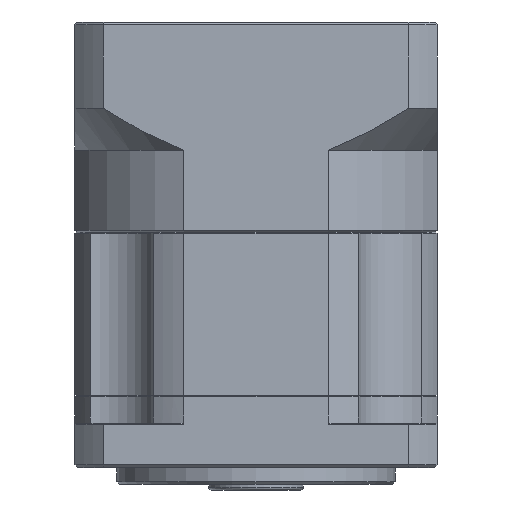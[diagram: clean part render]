
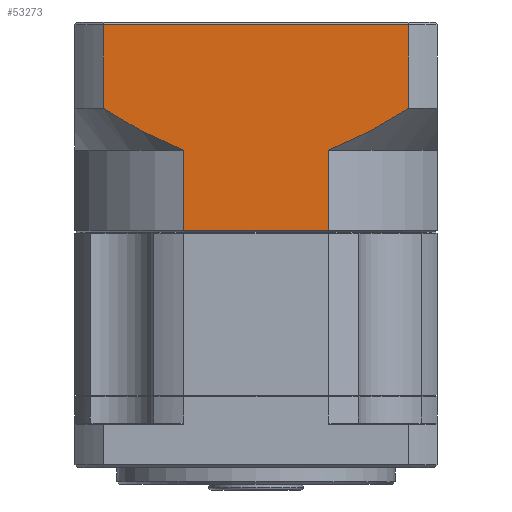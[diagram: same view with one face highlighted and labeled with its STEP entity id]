
A CAD part, front view. The second image highlights one B-rep face of the part: STEP entity #53273.
In plain terms, the highlighted planar face has unit normal (0, -1, 0).
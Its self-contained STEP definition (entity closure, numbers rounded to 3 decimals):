
#90 = ORIENTED_EDGE ( 'NONE', *, *, #79758, .F. ) ;
#240 = EDGE_LOOP ( 'NONE', ( #52726, #25613, #28148, #99792, #4098, #50906, #90, #76567 ) ) ;
#2361 = CARTESIAN_POINT ( 'NONE',  ( 47.596, -33.003, 68.303 ) ) ;
#3485 = CARTESIAN_POINT ( 'NONE',  ( 7.22, -33.003, 46.392 ) ) ;
#4098 = ORIENTED_EDGE ( 'NONE', *, *, #81255, .F. ) ;
#4250 = B_SPLINE_CURVE_WITH_KNOTS ( 'NONE', 3,
 ( #2361, #48930, #25878, #80004, #33750, #87756, #41501, #95480 ),
 .UNSPECIFIED., .F., .F.,
 ( 4, 2, 2, 4 ),
 ( 0.059, 0.063, 0.067, 0.075 ),
 .UNSPECIFIED. ) ;
#4653 = FACE_OUTER_BOUND ( 'NONE', #240, .T. ) ;
#11693 = VECTOR ( 'NONE', #47134, 1000. ) ;
#12051 = VECTOR ( 'NONE', #81212, 1000. ) ;
#14105 = LINE ( 'NONE', #93330, #11693 ) ;
#14474 = LINE ( 'NONE', #19193, #12051 ) ;
#14492 = VECTOR ( 'NONE', #57460, 1000. ) ;
#16661 = CARTESIAN_POINT ( 'NONE',  ( -7.176, -33.003, 65.803 ) ) ;
#18654 = VECTOR ( 'NONE', #73540, 1000. ) ;
#19040 = CARTESIAN_POINT ( 'NONE',  ( 6.577, -33.003, 61.042 ) ) ;
#19193 = CARTESIAN_POINT ( 'NONE',  ( -7.176, -33.003, 83.303 ) ) ;
#20758 = VECTOR ( 'NONE', #55359, 1000. ) ;
#21086 = LINE ( 'NONE', #65816, #18654 ) ;
#22418 = LINE ( 'NONE', #45638, #43128 ) ;
#24655 = CARTESIAN_POINT ( 'NONE',  ( 47.596, -33.003, 68.303 ) ) ;
#25613 = ORIENTED_EDGE ( 'NONE', *, *, #84022, .T. ) ;
#25878 = CARTESIAN_POINT ( 'NONE',  ( 45.306, -33.003, 66.854 ) ) ;
#27270 = CARTESIAN_POINT ( 'NONE',  ( 4.678, -33.003, 61.82 ) ) ;
#27605 = CARTESIAN_POINT ( 'NONE',  ( 33.2, -33.003, 46.392 ) ) ;
#28148 = ORIENTED_EDGE ( 'NONE', *, *, #83250, .F. ) ;
#30045 = VERTEX_POINT ( 'NONE', #3485 ) ;
#33750 = CARTESIAN_POINT ( 'NONE',  ( 41.785, -33.003, 64.799 ) ) ;
#35130 = CARTESIAN_POINT ( 'NONE',  ( 2.201, -33.003, 62.943 ) ) ;
#35702 = VERTEX_POINT ( 'NONE', #27605 ) ;
#36201 = VERTEX_POINT ( 'NONE', #74139 ) ;
#41501 = CARTESIAN_POINT ( 'NONE',  ( 35.739, -33.003, 61.746 ) ) ;
#42874 = CARTESIAN_POINT ( 'NONE',  ( -2.592, -33.003, 65.453 ) ) ;
#43128 = VECTOR ( 'NONE', #77677, 1000. ) ;
#44815 = DIRECTION ( 'NONE',  ( 0., 1., 0. ) ) ;
#45564 = CARTESIAN_POINT ( 'NONE',  ( 7.22, -33.003, 60.803 ) ) ;
#45638 = CARTESIAN_POINT ( 'NONE',  ( 47.596, -33.003, 65.803 ) ) ;
#47134 = DIRECTION ( 'NONE',  ( 1., 0., 0. ) ) ;
#48930 = CARTESIAN_POINT ( 'NONE',  ( 46.458, -33.003, 67.57 ) ) ;
#49037 = CARTESIAN_POINT ( 'NONE',  ( 33.2, -33.003, 60.803 ) ) ;
#50628 = CARTESIAN_POINT ( 'NONE',  ( -7.176, -33.003, 68.303 ) ) ;
#50906 = ORIENTED_EDGE ( 'NONE', *, *, #80664, .T. ) ;
#52283 = VERTEX_POINT ( 'NONE', #84159 ) ;
#52726 = ORIENTED_EDGE ( 'NONE', *, *, #85692, .F. ) ;
#53273 = ADVANCED_FACE ( 'NONE', ( #4653 ), #60062, .F. ) ;
#55359 = DIRECTION ( 'NONE',  ( 0., 0., 1. ) ) ;
#57460 = DIRECTION ( 'NONE',  ( 0., 0., -1. ) ) ;
#58216 = LINE ( 'NONE', #49037, #14492 ) ;
#60062 = PLANE ( 'NONE',  #60533 ) ;
#60533 = AXIS2_PLACEMENT_3D ( 'NONE', #91020, #44815, #98805 ) ;
#64524 = LINE ( 'NONE', #16661, #20758 ) ;
#65052 = B_SPLINE_CURVE_WITH_KNOTS ( 'NONE', 3,
 ( #73272, #19040, #73607, #27270, #81388, #35130, #89110, #42874, #96835, #50628 ),
 .UNSPECIFIED., .F., .F.,
 ( 4, 2, 2, 2, 4 ),
 ( 0.101, 0.104, 0.106, 0.11, 0.118 ),
 .UNSPECIFIED. ) ;
#65816 = CARTESIAN_POINT ( 'NONE',  ( 7.22, -33.003, 60.803 ) ) ;
#66966 = VERTEX_POINT ( 'NONE', #24655 ) ;
#73272 = CARTESIAN_POINT ( 'NONE',  ( 7.22, -33.003, 60.803 ) ) ;
#73540 = DIRECTION ( 'NONE',  ( 0., 0., 1. ) ) ;
#73607 = CARTESIAN_POINT ( 'NONE',  ( 5.938, -33.003, 61.294 ) ) ;
#74139 = CARTESIAN_POINT ( 'NONE',  ( -7.176, -33.003, 83.303 ) ) ;
#76420 = VERTEX_POINT ( 'NONE', #45564 ) ;
#76567 = ORIENTED_EDGE ( 'NONE', *, *, #78706, .F. ) ;
#77677 = DIRECTION ( 'NONE',  ( 0., 0., -1. ) ) ;
#78706 = EDGE_CURVE ( 'NONE', #66966, #97077, #4250, .T. ) ;
#79758 = EDGE_CURVE ( 'NONE', #97077, #35702, #58216, .T. ) ;
#80004 = CARTESIAN_POINT ( 'NONE',  ( 42.97, -33.003, 65.469 ) ) ;
#80664 = EDGE_CURVE ( 'NONE', #30045, #35702, #14105, .T. ) ;
#81212 = DIRECTION ( 'NONE',  ( -1., 0., 0. ) ) ;
#81255 = EDGE_CURVE ( 'NONE', #30045, #76420, #21086, .T. ) ;
#81388 = CARTESIAN_POINT ( 'NONE',  ( 4.054, -33.003, 62.093 ) ) ;
#83250 = EDGE_CURVE ( 'NONE', #96408, #36201, #64524, .T. ) ;
#83647 = CARTESIAN_POINT ( 'NONE',  ( -7.176, -33.003, 68.303 ) ) ;
#84022 = EDGE_CURVE ( 'NONE', #52283, #36201, #14474, .T. ) ;
#84159 = CARTESIAN_POINT ( 'NONE',  ( 47.596, -33.003, 83.303 ) ) ;
#85692 = EDGE_CURVE ( 'NONE', #52283, #66966, #22418, .T. ) ;
#87386 = EDGE_CURVE ( 'NONE', #76420, #96408, #65052, .T. ) ;
#87756 = CARTESIAN_POINT ( 'NONE',  ( 38.191, -33.003, 62.89 ) ) ;
#89110 = CARTESIAN_POINT ( 'NONE',  ( 0.988, -33.003, 63.548 ) ) ;
#91020 = CARTESIAN_POINT ( 'NONE',  ( 52.71, -33.003, 83.803 ) ) ;
#93330 = CARTESIAN_POINT ( 'NONE',  ( 52.71, -33.003, 46.392 ) ) ;
#94945 = CARTESIAN_POINT ( 'NONE',  ( 33.2, -33.003, 60.803 ) ) ;
#95480 = CARTESIAN_POINT ( 'NONE',  ( 33.2, -33.003, 60.803 ) ) ;
#96408 = VERTEX_POINT ( 'NONE', #83647 ) ;
#96835 = CARTESIAN_POINT ( 'NONE',  ( -4.907, -33.003, 66.841 ) ) ;
#97077 = VERTEX_POINT ( 'NONE', #94945 ) ;
#98805 = DIRECTION ( 'NONE',  ( -1., 0., 0. ) ) ;
#99792 = ORIENTED_EDGE ( 'NONE', *, *, #87386, .F. ) ;
